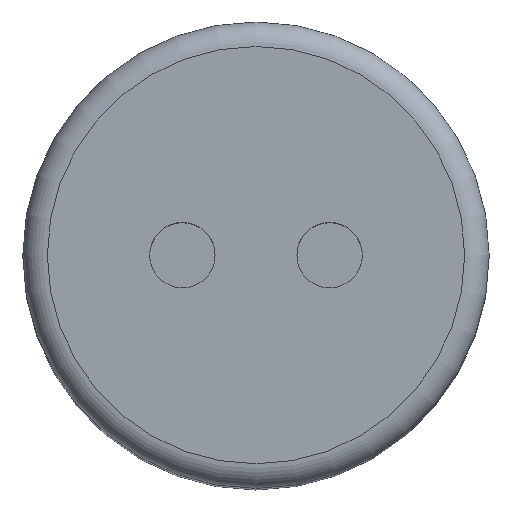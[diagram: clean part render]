
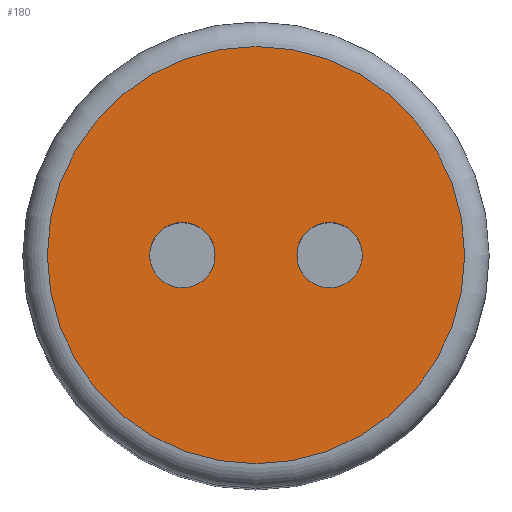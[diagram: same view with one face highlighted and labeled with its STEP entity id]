
A CAD part, top view. The second image highlights one B-rep face of the part: STEP entity #180.
In plain terms, the highlighted planar face has unit normal (0, 0, 1).
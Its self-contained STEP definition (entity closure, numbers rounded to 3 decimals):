
#28 = DIRECTION ( 'NONE',  ( 1., 0., 0. ) ) ;
#30 = CARTESIAN_POINT ( 'NONE',  ( 9., 0., 60. ) ) ;
#33 = FACE_BOUND ( 'NONE', #143, .T. ) ;
#34 = DIRECTION ( 'NONE',  ( 0., 0., 1. ) ) ;
#35 = DIRECTION ( 'NONE',  ( 1., 0., 0. ) ) ;
#36 = DIRECTION ( 'NONE',  ( 0., 0., 1. ) ) ;
#47 = CIRCLE ( 'NONE', #89, 25.5 ) ;
#58 = ORIENTED_EDGE ( 'NONE', *, *, #99, .F. ) ;
#69 = ORIENTED_EDGE ( 'NONE', *, *, #176, .T. ) ;
#73 = DIRECTION ( 'NONE',  ( 1., 0., 0. ) ) ;
#87 = FACE_OUTER_BOUND ( 'NONE', #219, .T. ) ;
#89 = AXIS2_PLACEMENT_3D ( 'NONE', #128, #36, #35 ) ;
#92 = AXIS2_PLACEMENT_3D ( 'NONE', #257, #211, #73 ) ;
#94 = CARTESIAN_POINT ( 'NONE',  ( 25.5, 0., 60. ) ) ;
#99 = EDGE_CURVE ( 'NONE', #119, #119, #107, .T. ) ;
#101 = CIRCLE ( 'NONE', #204, 4. ) ;
#104 = EDGE_CURVE ( 'NONE', #188, #188, #101, .T. ) ;
#107 = CIRCLE ( 'NONE', #92, 4. ) ;
#112 = ORIENTED_EDGE ( 'NONE', *, *, #104, .F. ) ;
#119 = VERTEX_POINT ( 'NONE', #234 ) ;
#121 = CARTESIAN_POINT ( 'NONE',  ( 0., 0., 60. ) ) ;
#126 = DIRECTION ( 'NONE',  ( 0., 0., 1. ) ) ;
#128 = CARTESIAN_POINT ( 'NONE',  ( 0., 0., 60. ) ) ;
#130 = PLANE ( 'NONE',  #250 ) ;
#139 = FACE_BOUND ( 'NONE', #163, .T. ) ;
#143 = EDGE_LOOP ( 'NONE', ( #58 ) ) ;
#145 = VERTEX_POINT ( 'NONE', #94 ) ;
#163 = EDGE_LOOP ( 'NONE', ( #112 ) ) ;
#176 = EDGE_CURVE ( 'NONE', #145, #145, #47, .T. ) ;
#180 = ADVANCED_FACE ( 'NONE', ( #87, #33, #139 ), #130, .T. ) ;
#181 = DIRECTION ( 'NONE',  ( -1., 0., 0. ) ) ;
#188 = VERTEX_POINT ( 'NONE', #252 ) ;
#204 = AXIS2_PLACEMENT_3D ( 'NONE', #30, #126, #181 ) ;
#211 = DIRECTION ( 'NONE',  ( 0., 0., 1. ) ) ;
#219 = EDGE_LOOP ( 'NONE', ( #69 ) ) ;
#234 = CARTESIAN_POINT ( 'NONE',  ( -5., 0., 60. ) ) ;
#250 = AXIS2_PLACEMENT_3D ( 'NONE', #121, #34, #28 ) ;
#252 = CARTESIAN_POINT ( 'NONE',  ( 5., 0., 60. ) ) ;
#257 = CARTESIAN_POINT ( 'NONE',  ( -9., 0., 60. ) ) ;
